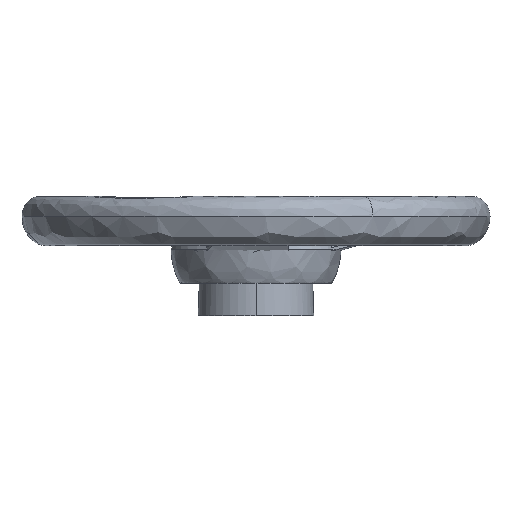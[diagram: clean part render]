
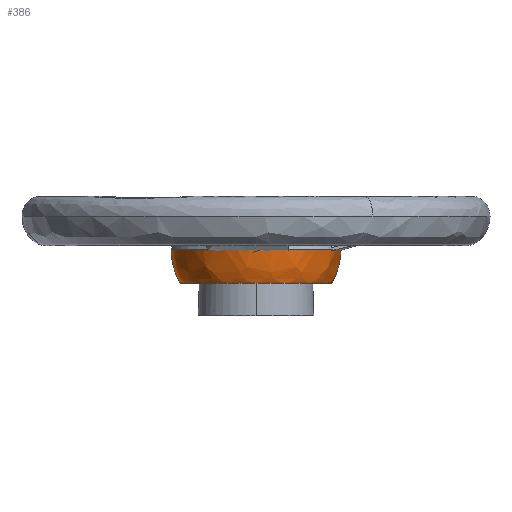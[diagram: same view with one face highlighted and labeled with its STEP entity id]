
A CAD part, left-side view. The second image highlights one B-rep face of the part: STEP entity #386.
In plain terms, the highlighted free-form (B-spline) face has degree [2, 2] with [9, 5] control points.
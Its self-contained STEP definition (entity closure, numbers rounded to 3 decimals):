
#386=ADVANCED_FACE($,(#1041),#7485,.T.);
#1041=FACE_OUTER_BOUND($,#1687,.T.);
#1687=EDGE_LOOP($,(#3266,#3267,#3268,#3269));
#3266=ORIENTED_EDGE($,*,*,#5559,.T.);
#3267=ORIENTED_EDGE($,*,*,#5551,.T.);
#3268=ORIENTED_EDGE($,*,*,#5506,.F.);
#3269=ORIENTED_EDGE($,*,*,#5558,.F.);
#5506=EDGE_CURVE($,#6788,#6785,#8828,.T.);
#5551=EDGE_CURVE($,#6814,#6785,#8859,.T.);
#5558=EDGE_CURVE($,#6818,#6788,#8863,.T.);
#5559=EDGE_CURVE($,#6818,#6814,#8864,.T.);
#6785=VERTEX_POINT($,#14789);
#6788=VERTEX_POINT($,#14792);
#6814=VERTEX_POINT($,#14818);
#6818=VERTEX_POINT($,#14822);
#7485=(
BOUNDED_SURFACE()
B_SPLINE_SURFACE(2,2,((#14611,#14612,#14613,#14614,#14615),(#14616,#14617,
#14618,#14619,#14620),(#14621,#14622,#14623,#14624,#14625),(#14626,#14627,
#14628,#14629,#14630),(#14631,#14632,#14633,#14634,#14635),(#14636,#14637,
#14638,#14639,#14640),(#14641,#14642,#14643,#14644,#14645),(#14646,#14647,
#14648,#14649,#14650),(#14651,#14652,#14653,#14654,#14655)),.UNSPECIFIED.,
.F.,.F.,.F.)
B_SPLINE_SURFACE_WITH_KNOTS((3,2,2,2,3),(3,2,3),(2.799,3.695,
4.969,6.243,32.094),(3.142,4.712,
6.283),.UNSPECIFIED.)
GEOMETRIC_REPRESENTATION_ITEM()
RATIONAL_B_SPLINE_SURFACE(((1.,0.707,1.,0.707,1.),
(1.,0.707,1.,0.707,1.),(1.,0.707,1.,
0.707,1.),(0.804,0.568,0.804,
0.568,0.804),(1.,0.707,1.,0.707,
1.),(0.804,0.568,0.804,0.568,
0.804),(1.,0.707,1.,0.707,1.),(0.967,
0.684,0.967,0.684,0.967),
(1.,0.707,1.,0.707,1.)))
REPRESENTATION_ITEM($)
SURFACE()
);
#8828=(
BOUNDED_CURVE()
B_SPLINE_CURVE(2,(#13759,#13760,#13761,#13762,#13763,#13764,#13765,#13766,
#13767),.UNSPECIFIED.,.F.,.F.)
B_SPLINE_CURVE_WITH_KNOTS((3,2,2,2,3),(2.799,3.695,
4.969,6.243,32.094),.UNSPECIFIED.)
CURVE()
GEOMETRIC_REPRESENTATION_ITEM()
RATIONAL_B_SPLINE_CURVE((1.,1.,1.,0.804,1.,0.804,
1.,0.967,1.))
REPRESENTATION_ITEM($)
);
#8859=(
BOUNDED_CURVE()
B_SPLINE_CURVE(2,(#13954,#13955,#13956,#13957,#13958),.UNSPECIFIED.,.F.,
.F.)
B_SPLINE_CURVE_WITH_KNOTS((3,2,3),(3.142,4.712,6.283),
.UNSPECIFIED.)
CURVE()
GEOMETRIC_REPRESENTATION_ITEM()
RATIONAL_B_SPLINE_CURVE((1.,0.707,1.,0.707,1.))
REPRESENTATION_ITEM($)
);
#8863=(
BOUNDED_CURVE()
B_SPLINE_CURVE(2,(#13980,#13981,#13982,#13983,#13984),.UNSPECIFIED.,.F.,
.F.)
B_SPLINE_CURVE_WITH_KNOTS((3,2,3),(3.142,4.712,6.283),
.UNSPECIFIED.)
CURVE()
GEOMETRIC_REPRESENTATION_ITEM()
RATIONAL_B_SPLINE_CURVE((1.,0.707,1.,0.707,1.))
REPRESENTATION_ITEM($)
);
#8864=(
BOUNDED_CURVE()
B_SPLINE_CURVE(2,(#13985,#13986,#13987,#13988,#13989,#13990,#13991,#13992,
#13993),.UNSPECIFIED.,.F.,.F.)
B_SPLINE_CURVE_WITH_KNOTS((3,2,2,2,3),(2.799,3.695,
4.969,6.243,32.094),.UNSPECIFIED.)
CURVE()
GEOMETRIC_REPRESENTATION_ITEM()
RATIONAL_B_SPLINE_CURVE((1.,1.,1.,0.804,1.,0.804,
1.,0.967,1.))
REPRESENTATION_ITEM($)
);
#13759=CARTESIAN_POINT($,(0.,53.75,-4.8));
#13760=CARTESIAN_POINT($,(0.,54.424,-13.549));
#13761=CARTESIAN_POINT($,(0.,55.098,-22.297));
#13762=CARTESIAN_POINT($,(0.,55.155,-23.035));
#13763=CARTESIAN_POINT($,(0.,55.877,-23.197));
#13764=CARTESIAN_POINT($,(0.,56.599,-23.358));
#13765=CARTESIAN_POINT($,(0.,56.965,-22.715));
#13766=CARTESIAN_POINT($,(0.,63.5,-11.222));
#13767=CARTESIAN_POINT($,(0.,63.5,2.));
#13954=CARTESIAN_POINT($,(0.,-63.5,2.));
#13955=CARTESIAN_POINT($,(-63.5,-63.5,2.));
#13956=CARTESIAN_POINT($,(-63.5,0.,2.));
#13957=CARTESIAN_POINT($,(-63.5,63.5,2.));
#13958=CARTESIAN_POINT($,(0.,63.5,2.));
#13980=CARTESIAN_POINT($,(0.,-53.75,-4.8));
#13981=CARTESIAN_POINT($,(-53.75,-53.75,-4.8));
#13982=CARTESIAN_POINT($,(-53.75,0.,-4.8));
#13983=CARTESIAN_POINT($,(-53.75,53.75,-4.8));
#13984=CARTESIAN_POINT($,(0.,53.75,-4.8));
#13985=CARTESIAN_POINT($,(0.,-53.75,-4.8));
#13986=CARTESIAN_POINT($,(0.,-54.424,-13.549));
#13987=CARTESIAN_POINT($,(0.,-55.098,-22.297));
#13988=CARTESIAN_POINT($,(0.,-55.155,-23.035));
#13989=CARTESIAN_POINT($,(0.,-55.877,-23.197));
#13990=CARTESIAN_POINT($,(0.,-56.599,-23.358));
#13991=CARTESIAN_POINT($,(0.,-56.965,-22.715));
#13992=CARTESIAN_POINT($,(0.,-63.5,-11.222));
#13993=CARTESIAN_POINT($,(0.,-63.5,2.));
#14611=CARTESIAN_POINT($,(0.,-53.75,-4.8));
#14612=CARTESIAN_POINT($,(-53.75,-53.75,-4.8));
#14613=CARTESIAN_POINT($,(-53.75,0.,-4.8));
#14614=CARTESIAN_POINT($,(-53.75,53.75,-4.8));
#14615=CARTESIAN_POINT($,(0.,53.75,-4.8));
#14616=CARTESIAN_POINT($,(0.,-54.424,-13.549));
#14617=CARTESIAN_POINT($,(-54.424,-54.424,-13.549));
#14618=CARTESIAN_POINT($,(-54.424,0.,-13.549));
#14619=CARTESIAN_POINT($,(-54.424,54.424,-13.549));
#14620=CARTESIAN_POINT($,(0.,54.424,-13.549));
#14621=CARTESIAN_POINT($,(0.,-55.098,-22.297));
#14622=CARTESIAN_POINT($,(-55.098,-55.098,-22.297));
#14623=CARTESIAN_POINT($,(-55.098,0.,-22.297));
#14624=CARTESIAN_POINT($,(-55.098,55.098,-22.297));
#14625=CARTESIAN_POINT($,(0.,55.098,-22.297));
#14626=CARTESIAN_POINT($,(0.,-55.155,-23.035));
#14627=CARTESIAN_POINT($,(-55.155,-55.155,-23.035));
#14628=CARTESIAN_POINT($,(-55.155,0.,-23.035));
#14629=CARTESIAN_POINT($,(-55.155,55.155,-23.035));
#14630=CARTESIAN_POINT($,(0.,55.155,-23.035));
#14631=CARTESIAN_POINT($,(0.,-55.877,-23.197));
#14632=CARTESIAN_POINT($,(-55.877,-55.877,-23.197));
#14633=CARTESIAN_POINT($,(-55.877,0.,-23.197));
#14634=CARTESIAN_POINT($,(-55.877,55.877,-23.197));
#14635=CARTESIAN_POINT($,(0.,55.877,-23.197));
#14636=CARTESIAN_POINT($,(0.,-56.599,-23.358));
#14637=CARTESIAN_POINT($,(-56.599,-56.599,-23.358));
#14638=CARTESIAN_POINT($,(-56.599,0.,-23.358));
#14639=CARTESIAN_POINT($,(-56.599,56.599,-23.358));
#14640=CARTESIAN_POINT($,(0.,56.599,-23.358));
#14641=CARTESIAN_POINT($,(0.,-56.965,-22.715));
#14642=CARTESIAN_POINT($,(-56.965,-56.965,-22.715));
#14643=CARTESIAN_POINT($,(-56.965,0.,-22.715));
#14644=CARTESIAN_POINT($,(-56.965,56.965,-22.715));
#14645=CARTESIAN_POINT($,(0.,56.965,-22.715));
#14646=CARTESIAN_POINT($,(0.,-63.5,-11.222));
#14647=CARTESIAN_POINT($,(-63.5,-63.5,-11.222));
#14648=CARTESIAN_POINT($,(-63.5,0.,-11.222));
#14649=CARTESIAN_POINT($,(-63.5,63.5,-11.222));
#14650=CARTESIAN_POINT($,(0.,63.5,-11.222));
#14651=CARTESIAN_POINT($,(0.,-63.5,2.));
#14652=CARTESIAN_POINT($,(-63.5,-63.5,2.));
#14653=CARTESIAN_POINT($,(-63.5,0.,2.));
#14654=CARTESIAN_POINT($,(-63.5,63.5,2.));
#14655=CARTESIAN_POINT($,(0.,63.5,2.));
#14789=CARTESIAN_POINT($,(0.,63.5,2.));
#14792=CARTESIAN_POINT($,(0.,53.75,-4.8));
#14818=CARTESIAN_POINT($,(0.,-63.5,2.));
#14822=CARTESIAN_POINT($,(0.,-53.75,-4.8));
